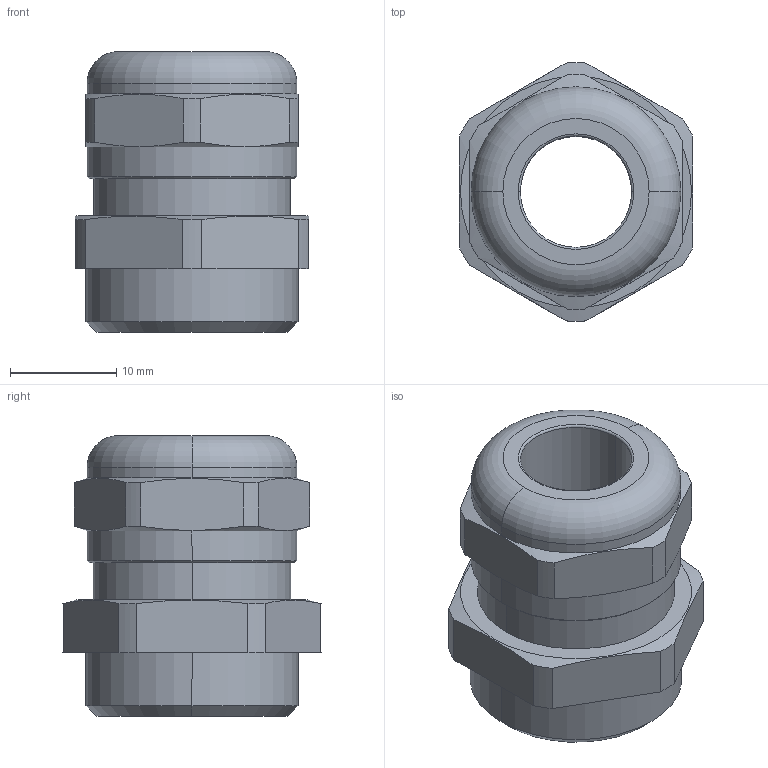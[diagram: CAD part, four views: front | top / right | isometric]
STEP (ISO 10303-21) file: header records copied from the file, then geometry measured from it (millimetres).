
FILE_DESCRIPTION (( 'STEP AP203' ), '1' );
FILE_NAME ('18M200710.STEP', '2006-08-17T09:18:02', ( ' ' ), ( '' ), 'SwSTEP 2.0', 'SolidWorks 2005278', '' );
FILE_SCHEMA (( 'CONFIG_CONTROL_DESIGN' ));
Length unit declared in the file: millimetre
Products named in the file (1): 18M200710
Bounding box: 22 x 24.39 x 26.5 mm (x, y, z)
Volume: 6338.6 mm3; surface area: 3242.8 mm2
Topology: 1 solids, 1 shells, 90 faces, 234 edges, 152 vertices
Faces by surface type: plane 54, cylinder 22, cone 10, torus 4
Entity records: 2869 total; most frequent: CARTESIAN_POINT 573, ORIENTED_EDGE 468, DIRECTION 450, EDGE_CURVE 234, VERTEX_POINT 152, VECTOR 152, LINE 152, AXIS2_PLACEMENT_3D 149
